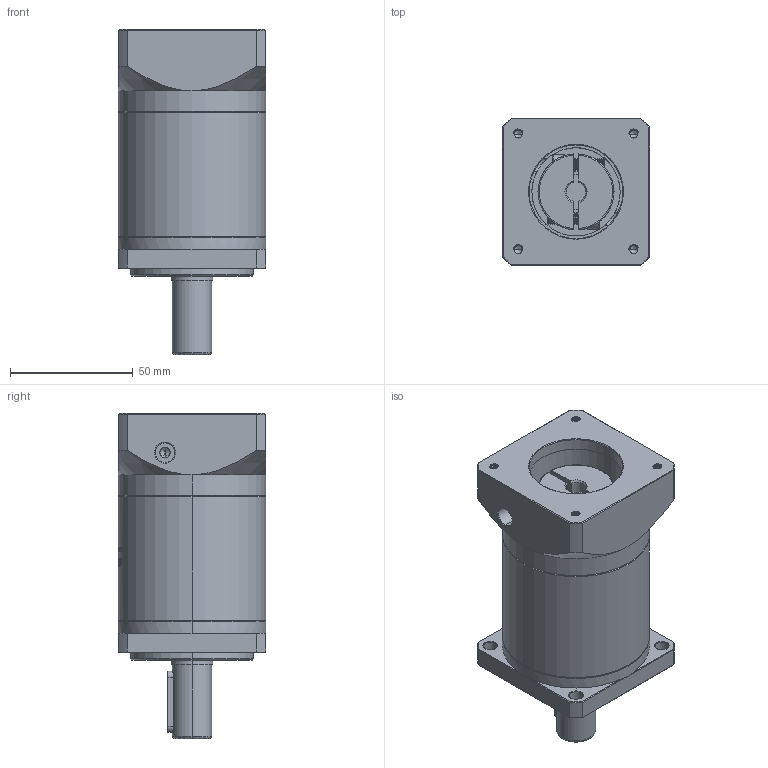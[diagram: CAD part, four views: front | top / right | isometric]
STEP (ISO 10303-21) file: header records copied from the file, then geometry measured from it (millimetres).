
FILE_DESCRIPTION (( 'STEP AP214' ), '1' );
FILE_NAME ('ZF60-D16-L2-8-38.1-47.14X47.14-M4.STEP', '2022-04-17T11:29:04', ( '' ), ( 'Microsoft' ), 'SwSTEP 2.0', 'SolidWorks 2016', '' );
FILE_SCHEMA (( 'AUTOMOTIVE_DESIGN' ));
Length unit declared in the file: millimetre
Products named in the file (1): ZF60-D16-L2-8-38.1-47.14X47.14-M4
Bounding box: 60 x 60 x 132.5 mm (x, y, z)
Volume: 277236.4 mm3; surface area: 47199.7 mm2
Topology: 6 solids, 6 shells, 1617 faces, 4370 edges, 2829 vertices
Faces by surface type: plane 744, cylinder 327, bspline 299, cone 229, torus 18
Entity records: 88882 total; most frequent: CARTESIAN_POINT 34128, ORIENTED_EDGE 8712, DIRECTION 6394, EDGE_CURVE 4356, VERTEX_POINT 2829, VECTOR 2214, LINE 2214, AXIS2_PLACEMENT_3D 2090
